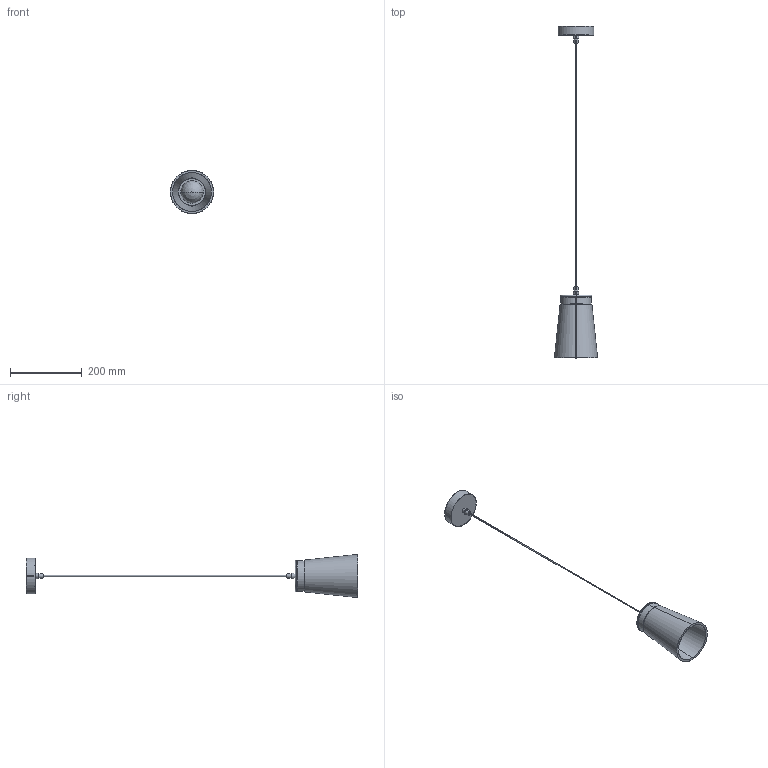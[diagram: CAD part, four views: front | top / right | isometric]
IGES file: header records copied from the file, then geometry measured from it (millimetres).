
Start section: SolidWorks IGES file using analytic representation for surfaces
Global section: file name: F:\燠隴矨\3D\2024-1堎\Georgia Cement Pendant Light-D12XH17.5CM.IGS; native system: SolidWorks 2022; preprocessor: SolidWorks 2022; author: MyPC; date: 240120.114625; units: millimetre
Bounding box: 120 x 923.1 x 120 mm (x, y, z)
Surface area: 186029.4 mm2 (no closed solid volume)
Topology: 0 solids, 0 shells, 73 faces, 1476 edges, 1475 vertices
Faces by surface type: revolution 42, bspline 31
